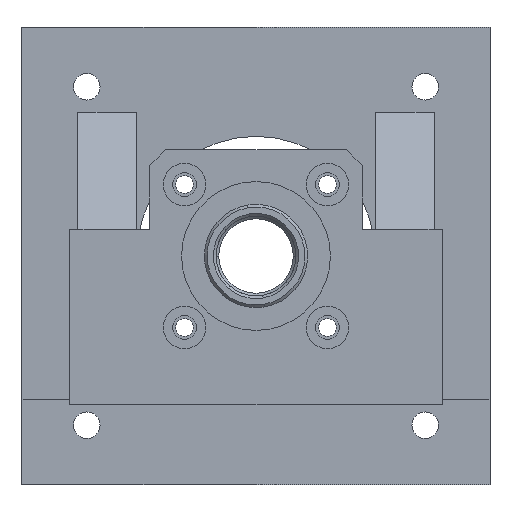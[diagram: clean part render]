
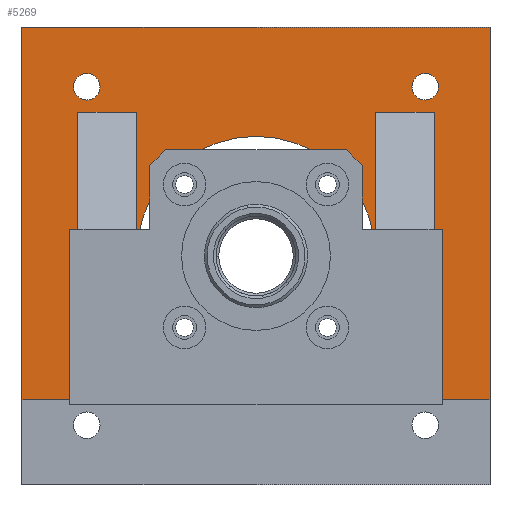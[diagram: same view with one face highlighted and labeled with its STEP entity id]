
A CAD part, left-side view. The second image highlights one B-rep face of the part: STEP entity #5269.
In plain terms, the highlighted planar face has unit normal (-1, 0, 0).
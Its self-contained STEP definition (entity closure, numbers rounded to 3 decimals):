
#3308=CARTESIAN_POINT('',(96.,-31.82,59.82));
#3309=DIRECTION('',(1.,0.,0.));
#3310=DIRECTION('',(0.,0.,-1.));
#3311=AXIS2_PLACEMENT_3D('',#3308,#3309,#3310);
#3313=CARTESIAN_POINT('',(96.,-31.82,59.82));
#3314=DIRECTION('',(1.,0.,0.));
#3315=DIRECTION('',(0.,0.,1.));
#3316=AXIS2_PLACEMENT_3D('',#3313,#3314,#3315);
#3318=CARTESIAN_POINT('',(96.,31.82,59.82));
#3319=DIRECTION('',(1.,0.,0.));
#3320=DIRECTION('',(0.,0.,-1.));
#3321=AXIS2_PLACEMENT_3D('',#3318,#3319,#3320);
#3323=CARTESIAN_POINT('',(96.,31.82,59.82));
#3324=DIRECTION('',(1.,0.,0.));
#3325=DIRECTION('',(0.,0.,1.));
#3326=AXIS2_PLACEMENT_3D('',#3323,#3324,#3325);
#3328=CARTESIAN_POINT('',(96.,0.,28.));
#3329=DIRECTION('',(1.,0.,0.));
#3330=DIRECTION('',(0.,1.,0.));
#3331=AXIS2_PLACEMENT_3D('',#3328,#3329,#3330);
#3333=DIRECTION('',(0.,0.,-1.));
#3334=VECTOR('',#3333,27.);
#3335=CARTESIAN_POINT('',(96.,22.5,55.));
#3336=LINE('',#3335,#3334);
#3337=DIRECTION('',(0.,-1.,0.));
#3338=VECTOR('',#3337,11.);
#3339=CARTESIAN_POINT('',(96.,33.5,55.));
#3340=LINE('',#3339,#3338);
#3341=DIRECTION('',(0.,-1.,0.));
#3342=VECTOR('',#3341,10.5);
#3343=CARTESIAN_POINT('',(96.,44.,1.));
#3344=LINE('',#3343,#3342);
#3345=DIRECTION('',(0.,0.,-1.));
#3346=VECTOR('',#3345,70.);
#3347=CARTESIAN_POINT('',(96.,44.,71.));
#3348=LINE('',#3347,#3346);
#3349=DIRECTION('',(0.,0.,1.));
#3350=VECTOR('',#3349,70.);
#3351=CARTESIAN_POINT('',(96.,-44.,1.));
#3352=LINE('',#3351,#3350);
#3353=DIRECTION('',(0.,-1.,0.));
#3354=VECTOR('',#3353,10.5);
#3355=CARTESIAN_POINT('',(96.,-33.5,1.));
#3356=LINE('',#3355,#3354);
#3357=DIRECTION('',(0.,0.,-1.));
#3358=VECTOR('',#3357,54.);
#3359=CARTESIAN_POINT('',(96.,-33.5,55.));
#3360=LINE('',#3359,#3358);
#3361=DIRECTION('',(0.,0.,1.));
#3362=VECTOR('',#3361,27.);
#3363=CARTESIAN_POINT('',(96.,-22.5,28.));
#3364=LINE('',#3363,#3362);
#3365=CARTESIAN_POINT('',(96.,0.,28.));
#3366=DIRECTION('',(1.,0.,0.));
#3367=DIRECTION('',(0.,0.,1.));
#3368=AXIS2_PLACEMENT_3D('',#3365,#3366,#3367);
#3557=DIRECTION('',(0.,-1.,0.));
#3558=VECTOR('',#3557,88.);
#3559=CARTESIAN_POINT('',(96.,44.,71.));
#3560=LINE('',#3559,#3558);
#3577=DIRECTION('',(0.,0.,-1.));
#3578=VECTOR('',#3577,54.);
#3579=CARTESIAN_POINT('',(96.,33.5,55.));
#3580=LINE('',#3579,#3578);
#4017=DIRECTION('',(0.,1.,0.));
#4018=VECTOR('',#4017,11.);
#4019=CARTESIAN_POINT('',(96.,-33.5,55.));
#4020=LINE('',#4019,#4018);
#4776=CARTESIAN_POINT('',(96.,-22.5,28.));
#4777=CARTESIAN_POINT('',(96.,-22.5,55.));
#4778=VERTEX_POINT('',#4776);
#4779=VERTEX_POINT('',#4777);
#4780=CARTESIAN_POINT('',(96.,-33.5,55.));
#4781=VERTEX_POINT('',#4780);
#4782=CARTESIAN_POINT('',(96.,-33.5,1.));
#4783=VERTEX_POINT('',#4782);
#4784=CARTESIAN_POINT('',(96.,-44.,1.));
#4785=VERTEX_POINT('',#4784);
#4786=CARTESIAN_POINT('',(96.,-44.,71.));
#4787=VERTEX_POINT('',#4786);
#4788=CARTESIAN_POINT('',(96.,44.,71.));
#4789=VERTEX_POINT('',#4788);
#4790=CARTESIAN_POINT('',(96.,44.,1.));
#4791=VERTEX_POINT('',#4790);
#4792=CARTESIAN_POINT('',(96.,33.5,1.));
#4793=VERTEX_POINT('',#4792);
#4794=CARTESIAN_POINT('',(96.,33.5,55.));
#4795=VERTEX_POINT('',#4794);
#4796=CARTESIAN_POINT('',(96.,22.5,55.));
#4797=VERTEX_POINT('',#4796);
#4798=CARTESIAN_POINT('',(96.,22.5,28.));
#4799=VERTEX_POINT('',#4798);
#4980=CARTESIAN_POINT('',(96.,0.,50.5));
#4982=VERTEX_POINT('',#4980);
#5065=CARTESIAN_POINT('',(96.,-31.82,57.32));
#5067=VERTEX_POINT('',#5065);
#5069=CARTESIAN_POINT('',(96.,-31.82,62.32));
#5071=VERTEX_POINT('',#5069);
#5089=CARTESIAN_POINT('',(96.,31.82,57.32));
#5091=VERTEX_POINT('',#5089);
#5093=CARTESIAN_POINT('',(96.,31.82,62.32));
#5095=VERTEX_POINT('',#5093);
#5224=CARTESIAN_POINT('',(96.,0.,0.));
#5225=DIRECTION('',(1.,0.,0.));
#5226=DIRECTION('',(0.,0.,-1.));
#5227=AXIS2_PLACEMENT_3D('',#5224,#5225,#5226);
#5228=PLANE('',#5227);
#5230=ORIENTED_EDGE('',*,*,#5229,.F.);
#5232=ORIENTED_EDGE('',*,*,#5231,.F.);
#5234=ORIENTED_EDGE('',*,*,#5233,.F.);
#5236=ORIENTED_EDGE('',*,*,#5235,.T.);
#5238=ORIENTED_EDGE('',*,*,#5237,.F.);
#5240=ORIENTED_EDGE('',*,*,#5239,.F.);
#5242=ORIENTED_EDGE('',*,*,#5241,.T.);
#5244=ORIENTED_EDGE('',*,*,#5243,.F.);
#5246=ORIENTED_EDGE('',*,*,#5245,.F.);
#5248=ORIENTED_EDGE('',*,*,#5247,.F.);
#5250=ORIENTED_EDGE('',*,*,#5249,.T.);
#5252=ORIENTED_EDGE('',*,*,#5251,.F.);
#5254=ORIENTED_EDGE('',*,*,#5253,.F.);
#5255=EDGE_LOOP('',(#5230,#5232,#5234,#5236,#5238,#5240,#5242,#5244,#5246,#5248,
#5250,#5252,#5254));
#5256=FACE_OUTER_BOUND('',#5255,.F.);
#5258=ORIENTED_EDGE('',*,*,#5257,.F.);
#5260=ORIENTED_EDGE('',*,*,#5259,.F.);
#5261=EDGE_LOOP('',(#5258,#5260));
#5262=FACE_BOUND('',#5261,.F.);
#5264=ORIENTED_EDGE('',*,*,#5263,.F.);
#5266=ORIENTED_EDGE('',*,*,#5265,.F.);
#5267=EDGE_LOOP('',(#5264,#5266));
#5268=FACE_BOUND('',#5267,.F.);
#3312=CIRCLE('',#3311,2.5);
#3317=CIRCLE('',#3316,2.5);
#3322=CIRCLE('',#3321,2.5);
#3327=CIRCLE('',#3326,2.5);
#3332=CIRCLE('',#3331,22.5);
#3369=CIRCLE('',#3368,22.5);
#5229=EDGE_CURVE('',#4799,#4982,#3332,.T.);
#5231=EDGE_CURVE('',#4797,#4799,#3336,.T.);
#5233=EDGE_CURVE('',#4795,#4797,#3340,.T.);
#5235=EDGE_CURVE('',#4795,#4793,#3580,.T.);
#5237=EDGE_CURVE('',#4791,#4793,#3344,.T.);
#5239=EDGE_CURVE('',#4789,#4791,#3348,.T.);
#5241=EDGE_CURVE('',#4789,#4787,#3560,.T.);
#5243=EDGE_CURVE('',#4785,#4787,#3352,.T.);
#5245=EDGE_CURVE('',#4783,#4785,#3356,.T.);
#5247=EDGE_CURVE('',#4781,#4783,#3360,.T.);
#5249=EDGE_CURVE('',#4781,#4779,#4020,.T.);
#5251=EDGE_CURVE('',#4778,#4779,#3364,.T.);
#5253=EDGE_CURVE('',#4982,#4778,#3369,.T.);
#5257=EDGE_CURVE('',#5091,#5095,#3322,.T.);
#5259=EDGE_CURVE('',#5095,#5091,#3327,.T.);
#5263=EDGE_CURVE('',#5067,#5071,#3312,.T.);
#5265=EDGE_CURVE('',#5071,#5067,#3317,.T.);
#5269=ADVANCED_FACE('',(#5256,#5262,#5268),#5228,.F.);
